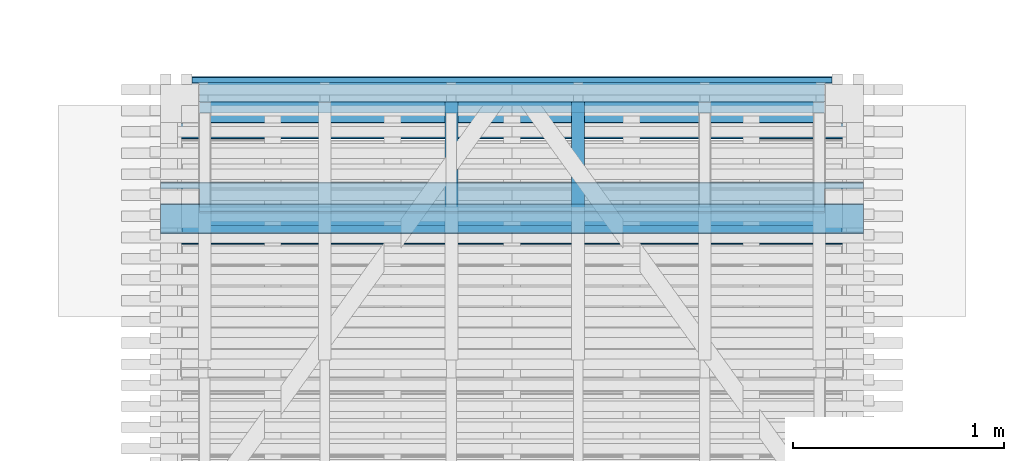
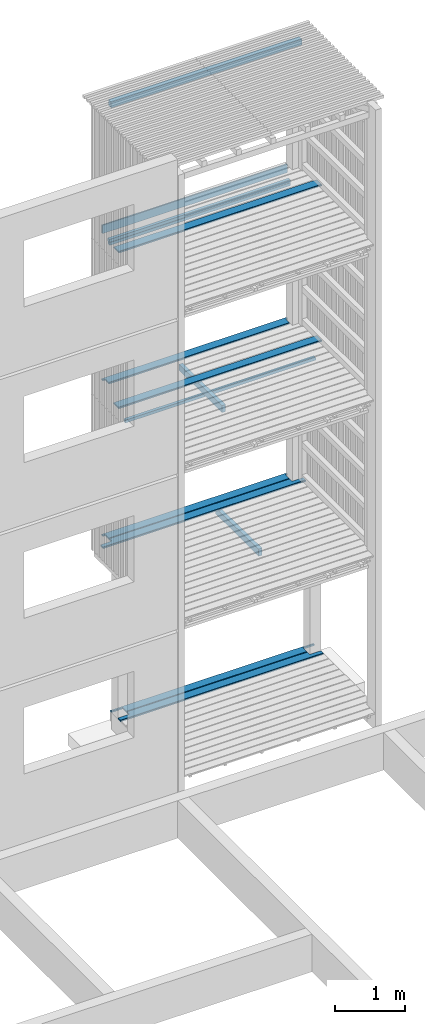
# One storey, part 125 of 182: 14 beams.
"""IFC2X3 building model written with IfcOpenShell, lengths in metres."""

from ifc_helpers import new_model, si_unit, frame, origin, place, context, project, spatial, faceted_brep, element, save


model = new_model("IFC2X3")

# Units and contexts
model_context = context("Model", 3, precision=1e-06, world=origin())
ifc_project = project(units=[si_unit("LENGTHUNIT", "METRE"), si_unit("PLANEANGLEUNIT", "RADIAN")], contexts=[model_context])

# Site, building, storey
site = spatial("IfcSite", under=ifc_project, CompositionType="ELEMENT")
building = spatial("IfcBuilding", under=site, CompositionType="ELEMENT")
storey = spatial("IfcBuildingStorey", under=building, Name="vs", CompositionType="ELEMENT", Elevation=-0.85)

# Beams
placement = place(None, origin())
beam_1_placement = place(placement, frame((56.169999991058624, 7.160077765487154, 7.86739999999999), z_axis=(0.0, 0.0, 1.0), x_axis=(-1.0, 0.0, 0.0)))
element("IfcBeam", 1, at=beam_1_placement, inside=storey, Name="Bardage", context=model_context, shape_type="Brep", body=[
    faceted_brep([(2.96000000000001, -0.024999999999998, 0.025000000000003), (2.96000000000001, -0.024999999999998, -0.024999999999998), (2.96000000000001, 0.025000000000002, -0.024999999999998), (2.96000000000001, 0.025000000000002, 0.025000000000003), (2e-15, 0.024999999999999, 0.025000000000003), (2e-15, 0.024999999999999, -0.024999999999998), (2e-15, -0.024999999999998, -0.024999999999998), (2e-15, -0.024999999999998, 0.025000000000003), (2e-15, -0.024999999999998, -0.024999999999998), (2e-15, 0.024999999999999, -0.024999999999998), (2.96000000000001, 0.025000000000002, -0.024999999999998), (2.96000000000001, -0.024999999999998, -0.024999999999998), (2e-15, 0.024999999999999, -0.024999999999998), (2e-15, 0.024999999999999, 0.025000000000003), (2.96000000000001, 0.025000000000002, 0.025000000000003), (2.96000000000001, 0.025000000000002, -0.024999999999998), (2e-15, 0.024999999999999, 0.025000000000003), (2e-15, -0.024999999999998, 0.025000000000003), (2.96000000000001, -0.024999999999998, 0.025000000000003), (2.96000000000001, 0.025000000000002, 0.025000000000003), (2e-15, -0.024999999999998, 0.025000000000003), (2e-15, -0.024999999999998, -0.024999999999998), (2.96000000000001, -0.024999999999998, -0.024999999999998), (2.96000000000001, -0.024999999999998, 0.025000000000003)], [[[0, 1, 2, 3]], [[4, 5, 6, 7]], [[8, 9, 10, 11]], [[12, 13, 14, 15]], [[16, 17, 18, 19]], [[20, 21, 22, 23]]]),
])
beam_2_placement = place(placement, frame((56.206818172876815, 7.234577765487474, 2.733499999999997), z_axis=(0.0, 0.0, 1.0), x_axis=(-1.0, 0.0, 0.0)))
element("IfcBeam", 2, at=beam_2_placement, inside=storey, Name="Caillebotis", context=model_context, shape_type="Brep", body=[
    faceted_brep([(3.033636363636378, -0.072499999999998, -0.0135), (3.033636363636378, -0.072499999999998, 0.008500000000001), (2e-15, -0.072499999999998, 0.008500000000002), (2e-15, -0.072500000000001, -0.0135), (2.996818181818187, 0.072500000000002, 0.0085), (2.996818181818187, 0.067500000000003, 0.0135), (2.996818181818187, -0.040499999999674, 0.0135), (2.996818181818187, -0.040499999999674, -0.0135), (2.996818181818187, 0.072500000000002, -0.0135), (0.036818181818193, -0.040499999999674, -0.0135), (0.036818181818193, 0.072499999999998, -0.0135), (2.996818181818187, 0.072500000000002, -0.0135), (2.996818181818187, -0.040499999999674, -0.0135), (3.033636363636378, -0.040499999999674, -0.0135), (3.033636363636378, -0.072499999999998, -0.0135), (2e-15, -0.072500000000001, -0.0135), (2e-15, -0.040499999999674, -0.0135), (3.033636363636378, -0.072499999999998, 0.008500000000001), (3.033636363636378, -0.072499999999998, -0.0135), (3.033636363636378, -0.040499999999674, -0.0135), (3.033636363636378, -0.040499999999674, 0.0135), (3.033636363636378, -0.067500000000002, 0.0135), (3.033636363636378, -0.040499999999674, 0.0135), (3.033636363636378, -0.040499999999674, -0.0135), (2.996818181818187, -0.040499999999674, -0.0135), (2.996818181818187, -0.040499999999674, 0.0135), (2.996818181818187, 0.072500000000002, 0.0085), (2.996818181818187, 0.072500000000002, -0.0135), (0.036818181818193, 0.072499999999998, -0.0135), (0.036818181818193, 0.072499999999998, 0.0085), (2.996818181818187, 0.067500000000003, 0.0135), (2.996818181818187, 0.072500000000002, 0.0085), (0.036818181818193, 0.072499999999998, 0.0085), (0.036818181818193, 0.067500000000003, 0.0135), (0.036818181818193, 0.067500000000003, 0.0135), (0.036818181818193, 0.072499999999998, 0.0085), (0.036818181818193, 0.072499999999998, -0.0135), (0.036818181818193, -0.040499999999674, -0.0135), (0.036818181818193, -0.040499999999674, 0.0135), (0.036818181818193, -0.040499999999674, 0.0135), (0.036818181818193, -0.040499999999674, -0.0135), (2e-15, -0.040499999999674, -0.0135), (2e-15, -0.040499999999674, 0.0135), (3.033636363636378, -0.067500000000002, 0.0135), (3.033636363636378, -0.040499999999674, 0.0135), (2.996818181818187, -0.040499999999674, 0.0135), (2.996818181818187, 0.067500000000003, 0.0135), (0.036818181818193, 0.067500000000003, 0.0135), (0.036818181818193, -0.040499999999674, 0.0135), (2e-15, -0.040499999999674, 0.0135), (2e-15, -0.067500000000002, 0.0135), (2e-15, -0.072499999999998, 0.008500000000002), (3.033636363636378, -0.072499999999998, 0.008500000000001), (3.033636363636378, -0.067500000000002, 0.0135), (2e-15, -0.067500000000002, 0.0135), (2e-15, -0.072500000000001, -0.0135), (2e-15, -0.072499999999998, 0.008500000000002), (2e-15, -0.067500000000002, 0.0135), (2e-15, -0.040499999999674, 0.0135), (2e-15, -0.040499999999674, -0.0135)], [[[0, 1, 2, 3]], [[4, 5, 6, 7, 8]], [[9, 10, 11, 12, 13, 14, 15, 16]], [[17, 18, 19, 20, 21]], [[22, 23, 24, 25]], [[26, 27, 28, 29]], [[30, 31, 32, 33]], [[34, 35, 36, 37, 38]], [[39, 40, 41, 42]], [[43, 44, 45, 46, 47, 48, 49, 50]], [[51, 52, 53, 54]], [[55, 56, 57, 58, 59]]]),
])
beam_3_placement = place(placement, frame((55.00299999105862, 5.965077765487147, 2.604249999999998), z_axis=(0.0, 0.0, 1.0), x_axis=(0.0, 1.0, 0.0)))
element("IfcBeam", 3, at=beam_3_placement, inside=storey, Name="Solive", context=model_context, shape_type="Brep", body=[
    faceted_brep([(0.0, -0.030000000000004, -0.06185), (1.225000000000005, -0.030000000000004, -0.06185), (1.225000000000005, -0.030000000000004, 0.037349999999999), (0.0, -0.030000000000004, 0.06185), (0.0, 0.029999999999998, 0.06185), (0.0, 0.029999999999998, -0.06185), (0.0, -0.030000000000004, -0.06185), (0.0, -0.030000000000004, 0.06185), (0.0, -0.030000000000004, -0.06185), (0.0, 0.029999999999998, -0.06185), (1.225000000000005, 0.029999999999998, -0.06185), (1.225000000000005, -0.030000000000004, -0.06185), (1.225000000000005, 0.029999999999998, -0.06185), (0.0, 0.029999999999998, -0.06185), (0.0, 0.029999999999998, 0.06185), (1.225000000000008, 0.029999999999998, 0.037349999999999), (1.225000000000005, -0.030000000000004, 0.037349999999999), (1.225000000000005, -0.030000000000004, -0.06185), (1.225000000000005, 0.029999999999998, -0.06185), (1.225000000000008, 0.029999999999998, 0.037349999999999), (0.0, -0.030000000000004, 0.06185), (1.225000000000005, -0.030000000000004, 0.037349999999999), (1.225000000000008, 0.029999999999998, 0.037349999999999), (0.0, 0.029999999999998, 0.06185)], [[[0, 1, 2, 3]], [[4, 5, 6, 7]], [[8, 9, 10, 11]], [[12, 13, 14, 15]], [[16, 17, 18, 19]], [[20, 21, 22, 23]]]),
])
beam_4_placement = place(placement, frame((56.35499999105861, 6.734577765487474, 0.033500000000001), z_axis=(0.0, 0.0, 1.0), x_axis=(-1.0, 0.0, 0.0)))
element("IfcBeam", 4, at=beam_4_placement, inside=storey, Name="Caillebotis", context=model_context, shape_type="Brep", body=[
    faceted_brep([(0.0, -0.072500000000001, -0.013500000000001), (0.0, -0.072500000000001, 0.008500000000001), (0.0, -0.067500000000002, 0.0135), (0.0, -0.040499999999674, 0.0135), (0.0, -0.040499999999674, -0.013500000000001), (3.329999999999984, -0.067500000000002, 0.0135), (3.329999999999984, -0.040499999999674, 0.0135), (3.144999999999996, -0.040499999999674, 0.0135), (3.144999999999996, 0.067500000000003, 0.0135), (0.184999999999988, 0.067499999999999, 0.0135), (0.184999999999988, -0.040499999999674, 0.0135), (0.0, -0.040499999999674, 0.0135), (0.0, -0.067500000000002, 0.0135), (0.184999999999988, -0.040499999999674, 0.0135), (0.184999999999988, 0.067499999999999, 0.0135), (0.184999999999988, 0.072499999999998, 0.0085), (0.184999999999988, 0.072499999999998, -0.013500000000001), (0.184999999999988, -0.040499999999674, -0.013500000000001), (3.329999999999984, -0.072499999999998, 0.008500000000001), (3.329999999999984, -0.072499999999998, -0.013500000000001), (3.329999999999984, -0.040499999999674, -0.013500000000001), (3.329999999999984, -0.040499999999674, 0.0135), (3.329999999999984, -0.067500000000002, 0.0135), (3.144999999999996, 0.072499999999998, 0.0085), (3.144999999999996, 0.067500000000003, 0.0135), (3.144999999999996, -0.040499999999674, 0.0135), (3.144999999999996, -0.040499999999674, -0.013500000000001), (3.144999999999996, 0.072500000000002, -0.013500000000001), (3.144999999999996, -0.040499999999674, -0.013500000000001), (3.144999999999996, -0.040499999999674, 0.0135), (3.329999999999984, -0.040499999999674, 0.0135), (3.329999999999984, -0.040499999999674, -0.013500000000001), (0.184999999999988, 0.072499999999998, -0.013500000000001), (0.184999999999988, 0.072499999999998, 0.0085), (3.144999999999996, 0.072499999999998, 0.0085), (3.144999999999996, 0.072500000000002, -0.013500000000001), (0.184999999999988, 0.072499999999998, 0.0085), (0.184999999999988, 0.067499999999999, 0.0135), (3.144999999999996, 0.067500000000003, 0.0135), (3.144999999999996, 0.072499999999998, 0.0085), (3.329999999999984, -0.072499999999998, 0.008500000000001), (3.329999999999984, -0.067500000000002, 0.0135), (0.0, -0.067500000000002, 0.0135), (0.0, -0.072500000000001, 0.008500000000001), (3.329999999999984, -0.072499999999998, -0.013500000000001), (3.329999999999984, -0.072499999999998, 0.008500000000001), (0.0, -0.072500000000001, 0.008500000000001), (0.0, -0.072500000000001, -0.013500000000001), (0.184999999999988, -0.040499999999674, -0.013500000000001), (0.184999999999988, 0.072499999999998, -0.013500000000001), (3.144999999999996, 0.072500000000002, -0.013500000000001), (3.144999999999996, -0.040499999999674, -0.013500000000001), (3.329999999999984, -0.040499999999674, -0.013500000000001), (3.329999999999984, -0.072499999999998, -0.013500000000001), (0.0, -0.072500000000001, -0.013500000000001), (0.0, -0.040499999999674, -0.013500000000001), (0.0, -0.040499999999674, 0.0135), (0.184999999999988, -0.040499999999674, 0.0135), (0.184999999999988, -0.040499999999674, -0.013500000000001), (0.0, -0.040499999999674, -0.013500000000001)], [[[0, 1, 2, 3, 4]], [[5, 6, 7, 8, 9, 10, 11, 12]], [[13, 14, 15, 16, 17]], [[18, 19, 20, 21, 22]], [[23, 24, 25, 26, 27]], [[28, 29, 30, 31]], [[32, 33, 34, 35]], [[36, 37, 38, 39]], [[40, 41, 42, 43]], [[44, 45, 46, 47]], [[48, 49, 50, 51, 52, 53, 54, 55]], [[56, 57, 58, 59]]]),
])
beam_5_placement = place(placement, frame((56.35499999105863, 6.634577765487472, 8.13349999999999), z_axis=(0.0, 0.0, 1.0), x_axis=(-1.0, 0.0, 0.0)))
element("IfcBeam", 5, at=beam_5_placement, inside=storey, Name="Caillebotis", context=model_context, shape_type="Brep", body=[
    faceted_brep([(3.329999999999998, -0.072499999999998, -0.013500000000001), (3.329999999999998, 0.072499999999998, -0.013500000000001), (3.329999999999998, 0.072499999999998, 0.008499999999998), (3.329999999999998, 0.067500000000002, 0.013499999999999), (3.329999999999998, -0.067500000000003, 0.013499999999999), (3.329999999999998, -0.072499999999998, 0.0085), (0.0, -0.072500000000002, 0.0085), (0.0, -0.067500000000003, 0.013499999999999), (0.0, 0.067499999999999, 0.013499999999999), (0.0, 0.072499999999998, 0.008499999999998), (0.0, 0.072499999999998, -0.013500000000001), (0.0, -0.072500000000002, -0.013500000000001), (3.329999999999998, 0.072499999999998, 0.008499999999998), (3.329999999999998, 0.072499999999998, -0.013500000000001), (0.0, 0.072499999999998, -0.013500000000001), (0.0, 0.072499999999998, 0.008499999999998), (3.329999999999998, 0.067500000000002, 0.013499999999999), (3.329999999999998, 0.072499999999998, 0.008499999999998), (0.0, 0.072499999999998, 0.008499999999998), (0.0, 0.067499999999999, 0.013499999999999), (3.329999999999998, -0.067500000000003, 0.013499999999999), (3.329999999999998, 0.067500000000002, 0.013499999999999), (0.0, 0.067499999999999, 0.013499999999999), (0.0, -0.067500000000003, 0.013499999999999), (3.329999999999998, -0.072499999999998, 0.0085), (3.329999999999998, -0.067500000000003, 0.013499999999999), (0.0, -0.067500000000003, 0.013499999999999), (0.0, -0.072500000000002, 0.0085), (3.329999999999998, -0.072499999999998, -0.013500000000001), (3.329999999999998, -0.072499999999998, 0.0085), (0.0, -0.072500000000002, 0.0085), (0.0, -0.072500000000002, -0.013500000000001), (0.0, 0.072499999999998, -0.013500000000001), (3.329999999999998, 0.072499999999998, -0.013500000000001), (3.329999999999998, -0.072499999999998, -0.013500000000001), (0.0, -0.072500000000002, -0.013500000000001)], [[[0, 1, 2, 3, 4, 5]], [[6, 7, 8, 9, 10, 11]], [[12, 13, 14, 15]], [[16, 17, 18, 19]], [[20, 21, 22, 23]], [[24, 25, 26, 27]], [[28, 29, 30, 31]], [[32, 33, 34, 35]]]),
])
beam_6_placement = place(placement, frame((56.33499999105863, 7.130077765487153, 10.30499999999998), z_axis=(0.0, 0.0, 1.0), x_axis=(-1.0, 0.0, 0.0)))
element("IfcBeam", 6, at=beam_6_placement, inside=storey, Name="Support bardage", context=model_context, shape_type="Brep", body=[
    faceted_brep([(3e-15, 0.04, -0.050000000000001), (3e-15, -0.039999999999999, -0.050000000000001), (3e-15, -0.039999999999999, 0.050000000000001), (3e-15, 0.04, 0.050000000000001), (3.129999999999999, -0.039999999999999, 0.050000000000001), (3.129999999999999, -0.039999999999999, -0.050000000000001), (3.129999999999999, 0.04, -0.050000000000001), (3.129999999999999, 0.04, 0.050000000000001), (3e-15, -0.039999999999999, -0.050000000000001), (3e-15, 0.04, -0.050000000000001), (3.129999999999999, 0.04, -0.050000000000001), (3.129999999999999, -0.039999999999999, -0.050000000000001), (3e-15, -0.039999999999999, 0.050000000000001), (3e-15, -0.039999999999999, -0.050000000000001), (3.129999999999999, -0.039999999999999, -0.050000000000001), (3.129999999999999, -0.039999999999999, 0.050000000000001), (3e-15, 0.04, 0.050000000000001), (3e-15, -0.039999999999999, 0.050000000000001), (3.129999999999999, -0.039999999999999, 0.050000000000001), (3.129999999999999, 0.04, 0.050000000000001), (3.129999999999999, 0.04, -0.050000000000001), (3e-15, 0.04, -0.050000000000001), (3e-15, 0.04, 0.050000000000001), (3.129999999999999, 0.04, 0.050000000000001)], [[[0, 1, 2, 3]], [[4, 5, 6, 7]], [[8, 9, 10, 11]], [[12, 13, 14, 15]], [[16, 17, 18, 19]], [[20, 21, 22, 23]]]),
])
beam_7_placement = place(placement, frame((56.206818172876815, 7.234577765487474, 5.433499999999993), z_axis=(0.0, 0.0, 1.0), x_axis=(-1.0, 0.0, 0.0)))
element("IfcBeam", 7, at=beam_7_placement, inside=storey, Name="Caillebotis", context=model_context, shape_type="Brep", body=[
    faceted_brep([(3.033636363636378, -0.072499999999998, -0.0135), (3.033636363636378, -0.072499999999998, 0.008500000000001), (2e-15, -0.072499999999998, 0.008500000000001), (2e-15, -0.072500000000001, -0.0135), (2.996818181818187, 0.072500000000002, 0.0085), (2.996818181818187, 0.067500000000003, 0.0135), (2.996818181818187, -0.040499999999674, 0.0135), (2.996818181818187, -0.040499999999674, -0.0135), (2.996818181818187, 0.072500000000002, -0.013500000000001), (0.036818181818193, -0.040499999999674, -0.0135), (0.036818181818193, 0.072499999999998, -0.0135), (2.996818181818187, 0.072500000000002, -0.013500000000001), (2.996818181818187, -0.040499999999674, -0.0135), (3.033636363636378, -0.040499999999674, -0.013500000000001), (3.033636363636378, -0.072499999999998, -0.0135), (2e-15, -0.072500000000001, -0.0135), (2e-15, -0.040499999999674, -0.0135), (3.033636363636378, -0.072499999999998, 0.008500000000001), (3.033636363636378, -0.072499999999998, -0.0135), (3.033636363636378, -0.040499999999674, -0.013500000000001), (3.033636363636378, -0.040499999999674, 0.0135), (3.033636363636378, -0.067500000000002, 0.0135), (3.033636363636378, -0.040499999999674, 0.0135), (3.033636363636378, -0.040499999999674, -0.013500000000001), (2.996818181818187, -0.040499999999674, -0.0135), (2.996818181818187, -0.040499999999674, 0.0135), (2.996818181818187, 0.072500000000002, 0.0085), (2.996818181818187, 0.072500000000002, -0.013500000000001), (0.036818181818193, 0.072499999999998, -0.0135), (0.036818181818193, 0.072499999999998, 0.008500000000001), (2.996818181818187, 0.067500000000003, 0.0135), (2.996818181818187, 0.072500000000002, 0.0085), (0.036818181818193, 0.072499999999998, 0.008500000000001), (0.036818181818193, 0.067500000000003, 0.0135), (0.036818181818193, 0.067500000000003, 0.0135), (0.036818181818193, 0.072499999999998, 0.008500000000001), (0.036818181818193, 0.072499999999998, -0.0135), (0.036818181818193, -0.040499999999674, -0.0135), (0.036818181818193, -0.040499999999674, 0.0135), (0.036818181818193, -0.040499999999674, 0.0135), (0.036818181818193, -0.040499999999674, -0.0135), (2e-15, -0.040499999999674, -0.0135), (2e-15, -0.040499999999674, 0.0135), (3.033636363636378, -0.067500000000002, 0.0135), (3.033636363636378, -0.040499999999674, 0.0135), (2.996818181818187, -0.040499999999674, 0.0135), (2.996818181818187, 0.067500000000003, 0.0135), (0.036818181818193, 0.067500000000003, 0.0135), (0.036818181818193, -0.040499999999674, 0.0135), (2e-15, -0.040499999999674, 0.0135), (2e-15, -0.067500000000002, 0.0135), (2e-15, -0.072499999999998, 0.008500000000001), (3.033636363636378, -0.072499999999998, 0.008500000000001), (3.033636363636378, -0.067500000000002, 0.0135), (2e-15, -0.067500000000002, 0.0135), (2e-15, -0.072500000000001, -0.0135), (2e-15, -0.072499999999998, 0.008500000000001), (2e-15, -0.067500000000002, 0.0135), (2e-15, -0.040499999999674, 0.0135), (2e-15, -0.040499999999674, -0.0135)], [[[0, 1, 2, 3]], [[4, 5, 6, 7, 8]], [[9, 10, 11, 12, 13, 14, 15, 16]], [[17, 18, 19, 20, 21]], [[22, 23, 24, 25]], [[26, 27, 28, 29]], [[30, 31, 32, 33]], [[34, 35, 36, 37, 38]], [[39, 40, 41, 42]], [[43, 44, 45, 46, 47, 48, 49, 50]], [[51, 52, 53, 54]], [[55, 56, 57, 58, 59]]]),
])
beam_8_placement = place(placement, frame((54.402999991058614, 5.965077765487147, 5.304249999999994), z_axis=(0.0, 0.0, 1.0), x_axis=(1.2e-14, 1.0, 0.0)))
element("IfcBeam", 8, at=beam_8_placement, inside=storey, Name="Solive", context=model_context, shape_type="Brep", body=[
    faceted_brep([(0.0, -0.030000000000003, -0.061849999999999), (1.225000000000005, -0.029999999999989, -0.061849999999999), (1.225000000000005, -0.029999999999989, 0.03735), (0.0, -0.030000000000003, 0.06185), (-1e-15, 0.029999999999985, -0.061849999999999), (1.225000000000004, 0.029999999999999, -0.061849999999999), (1.225000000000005, -0.029999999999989, -0.061849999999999), (0.0, -0.030000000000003, -0.061849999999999), (-1e-15, 0.029999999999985, 0.061850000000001), (-1e-15, 0.029999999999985, -0.061849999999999), (0.0, -0.030000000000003, -0.061849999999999), (0.0, -0.030000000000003, 0.06185), (1.225000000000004, 0.029999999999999, -0.061849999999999), (-1e-15, 0.029999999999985, -0.061849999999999), (-1e-15, 0.029999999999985, 0.061850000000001), (1.225000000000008, 0.029999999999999, 0.03735), (1.225000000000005, -0.029999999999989, 0.03735), (1.225000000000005, -0.029999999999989, -0.061849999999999), (1.225000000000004, 0.029999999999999, -0.061849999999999), (1.225000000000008, 0.029999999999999, 0.03735), (0.0, -0.030000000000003, 0.06185), (1.225000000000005, -0.029999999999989, 0.03735), (1.225000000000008, 0.029999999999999, 0.03735), (-1e-15, 0.029999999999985, 0.061850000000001)], [[[0, 1, 2, 3]], [[4, 5, 6, 7]], [[8, 9, 10, 11]], [[12, 13, 14, 15]], [[16, 17, 18, 19]], [[20, 21, 22, 23]]]),
])
beam_9_placement = place(placement, frame((56.35499999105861, 6.584577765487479, 0.033500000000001), z_axis=(0.0, 0.0, 1.0), x_axis=(-1.0, 0.0, 0.0)))
element("IfcBeam", 9, at=beam_9_placement, inside=storey, Name="Caillebotis", context=model_context, shape_type="Brep", body=[
    faceted_brep([(0.184999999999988, -0.000499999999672, -0.0135), (0.184999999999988, -0.072499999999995, -0.0135), (0.184999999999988, -0.072499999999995, 0.008500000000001), (0.184999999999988, -0.067499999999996, 0.0135), (0.184999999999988, -0.000499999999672, 0.0135), (3.329999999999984, -0.000499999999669, 0.0135), (3.329999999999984, -0.000499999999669, -0.013500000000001), (3.329999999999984, 0.072500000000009, -0.013500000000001), (3.329999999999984, 0.072500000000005, 0.0085), (3.329999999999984, 0.067500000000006, 0.0135), (3.144999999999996, -0.072499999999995, 0.008500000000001), (3.144999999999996, -0.072499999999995, -0.013500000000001), (3.144999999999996, -0.000499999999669, -0.013500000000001), (3.144999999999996, -0.000499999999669, 0.0135), (3.144999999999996, -0.067499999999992, 0.0135), (3.144999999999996, -0.000499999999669, 0.0135), (3.144999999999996, -0.000499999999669, -0.013500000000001), (3.329999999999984, -0.000499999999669, -0.013500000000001), (3.329999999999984, -0.000499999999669, 0.0135), (0.184999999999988, -0.067499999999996, 0.0135), (0.184999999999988, -0.072499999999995, 0.008500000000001), (3.144999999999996, -0.072499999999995, 0.008500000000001), (3.144999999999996, -0.067499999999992, 0.0135), (0.184999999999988, -0.072499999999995, 0.008500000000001), (0.184999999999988, -0.072499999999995, -0.0135), (3.144999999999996, -0.072499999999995, -0.013500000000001), (3.144999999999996, -0.072499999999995, 0.008500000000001), (0.0, 0.072500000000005, -0.0135), (0.0, -0.000499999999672, -0.0135), (0.0, -0.000499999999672, 0.0135), (0.0, 0.067500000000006, 0.0135), (0.0, 0.072500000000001, 0.0085), (0.184999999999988, -0.000499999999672, 0.0135), (0.184999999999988, -0.067499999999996, 0.0135), (3.144999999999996, -0.067499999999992, 0.0135), (3.144999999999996, -0.000499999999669, 0.0135), (3.329999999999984, -0.000499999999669, 0.0135), (3.329999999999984, 0.067500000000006, 0.0135), (0.0, 0.067500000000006, 0.0135), (0.0, -0.000499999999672, 0.0135), (0.184999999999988, -0.000499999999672, -0.0135), (0.184999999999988, -0.000499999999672, 0.0135), (0.0, -0.000499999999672, 0.0135), (0.0, -0.000499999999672, -0.0135), (3.329999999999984, 0.072500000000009, -0.013500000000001), (3.329999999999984, -0.000499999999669, -0.013500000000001), (3.144999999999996, -0.000499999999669, -0.013500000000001), (3.144999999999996, -0.072499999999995, -0.013500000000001), (0.184999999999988, -0.072499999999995, -0.0135), (0.184999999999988, -0.000499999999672, -0.0135), (0.0, -0.000499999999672, -0.0135), (0.0, 0.072500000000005, -0.0135), (3.329999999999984, 0.072500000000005, 0.0085), (3.329999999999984, 0.072500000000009, -0.013500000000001), (0.0, 0.072500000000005, -0.0135), (0.0, 0.072500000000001, 0.0085), (0.0, 0.067500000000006, 0.0135), (3.329999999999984, 0.067500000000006, 0.0135), (3.329999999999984, 0.072500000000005, 0.0085), (0.0, 0.072500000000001, 0.0085)], [[[0, 1, 2, 3, 4]], [[5, 6, 7, 8, 9]], [[10, 11, 12, 13, 14]], [[15, 16, 17, 18]], [[19, 20, 21, 22]], [[23, 24, 25, 26]], [[27, 28, 29, 30, 31]], [[32, 33, 34, 35, 36, 37, 38, 39]], [[40, 41, 42, 43]], [[44, 45, 46, 47, 48, 49, 50, 51]], [[52, 53, 54, 55]], [[56, 57, 58, 59]]]),
])
beam_10_placement = place(placement, frame((53.20499999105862, 7.165077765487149, 7.917399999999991), z_axis=(0.0, 0.0, 1.0), x_axis=(1.0, 1e-15, 0.0)))
element("IfcBeam", 10, at=beam_10_placement, inside=storey, Name="Ligneul", context=model_context, shape_type="Brep", body=[
    faceted_brep([(2e-15, 0.025000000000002, -0.025000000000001), (2.970000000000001, 0.025000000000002, -0.025000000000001), (2.970000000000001, -0.025000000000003, -0.025000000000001), (2e-15, -0.024999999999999, -0.025000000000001), (2e-15, -0.024999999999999, 0.024999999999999), (2e-15, 0.025000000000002, 0.024999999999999), (2e-15, 0.025000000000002, -0.025000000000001), (2e-15, -0.024999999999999, -0.025000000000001), (2e-15, -0.024999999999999, 0.024999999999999), (2e-15, -0.024999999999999, -0.025000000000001), (2.970000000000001, -0.025000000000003, -0.025000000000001), (2.970000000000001, -0.025000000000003, 0.024999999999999), (2.970000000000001, -0.025000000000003, 0.024999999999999), (2.970000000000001, -0.025000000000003, -0.025000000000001), (2.970000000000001, 0.025000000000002, -0.025000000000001), (2.970000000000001, 0.025000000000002, 0.024999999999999), (2e-15, 0.025000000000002, 0.024999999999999), (2e-15, -0.024999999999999, 0.024999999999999), (2.970000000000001, -0.025000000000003, 0.024999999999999), (2.970000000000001, 0.025000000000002, 0.024999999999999), (2.970000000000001, 0.025000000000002, -0.025000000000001), (2e-15, 0.025000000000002, -0.025000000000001), (2e-15, 0.025000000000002, 0.024999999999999), (2.970000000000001, 0.025000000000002, 0.024999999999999)], [[[0, 1, 2, 3]], [[4, 5, 6, 7]], [[8, 9, 10, 11]], [[12, 13, 14, 15]], [[16, 17, 18, 19]], [[20, 21, 22, 23]]]),
])
beam_11_placement = place(placement, frame((53.17318180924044, 7.293577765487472, 8.042499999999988), z_axis=(0.0, 1.0, 0.0), x_axis=(1.0, 0.0, 0.0)))
element("IfcBeam", 11, at=beam_11_placement, inside=storey, Name="Caillebotis", context=model_context, shape_type="Brep", body=[
    faceted_brep([(-3e-15, -0.072500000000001, -0.013500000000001), (-3e-15, 0.072499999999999, -0.013500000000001), (3.033636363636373, 0.072499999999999, -0.013500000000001), (3.033636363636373, -0.072500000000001, -0.013500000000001), (-3e-15, -0.072500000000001, 0.008500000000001), (-3e-15, -0.072500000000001, -0.013500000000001), (3.033636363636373, -0.072500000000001, -0.013500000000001), (3.033636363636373, -0.072500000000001, 0.008500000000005), (-3e-15, -0.067500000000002, 0.0135), (-3e-15, -0.072500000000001, 0.008500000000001), (3.033636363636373, -0.072500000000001, 0.008500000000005), (3.033636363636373, -0.067500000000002, 0.013500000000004), (-3e-15, -0.072500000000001, -0.013500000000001), (-3e-15, -0.072500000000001, 0.008500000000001), (-3e-15, -0.067500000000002, 0.0135), (-3e-15, 0.0675, 0.0135), (-3e-15, 0.072499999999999, 0.008500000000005), (-3e-15, 0.072499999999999, -0.013500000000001), (-3e-15, 0.0675, 0.0135), (-3e-15, -0.067500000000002, 0.0135), (3.033636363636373, -0.067500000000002, 0.013500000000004), (3.033636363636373, 0.0675, 0.013500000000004), (-3e-15, 0.072499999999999, 0.008500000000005), (-3e-15, 0.0675, 0.0135), (3.033636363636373, 0.0675, 0.013500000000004), (3.033636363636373, 0.072499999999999, 0.008500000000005), (3.033636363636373, 0.072499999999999, -0.013500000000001), (-3e-15, 0.072499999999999, -0.013500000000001), (-3e-15, 0.072499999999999, 0.008500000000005), (3.033636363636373, 0.072499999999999, 0.008500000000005), (3.033636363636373, -0.072500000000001, 0.008500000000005), (3.033636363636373, -0.072500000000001, -0.013500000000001), (3.033636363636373, 0.072499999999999, -0.013500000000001), (3.033636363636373, 0.072499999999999, 0.008500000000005), (3.033636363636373, 0.0675, 0.013500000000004), (3.033636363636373, -0.067500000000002, 0.013500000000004)], [[[0, 1, 2, 3]], [[4, 5, 6, 7]], [[8, 9, 10, 11]], [[12, 13, 14, 15, 16, 17]], [[18, 19, 20, 21]], [[22, 23, 24, 25]], [[26, 27, 28, 29]], [[30, 31, 32, 33, 34, 35]]]),
])
beam_12_placement = place(placement, frame((56.24999999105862, 6.577577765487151, 5.167399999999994), z_axis=(0.0, 0.0, 1.0), x_axis=(-1.0, -1e-15, 0.0)))
element("IfcBeam", 12, at=beam_12_placement, inside=storey, Name="Bardage", context=model_context, shape_type="Brep", body=[
    faceted_brep([(3.120000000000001, 0.024999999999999, 0.024999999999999), (3.120000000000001, -0.025000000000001, 0.024999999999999), (3.120000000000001, -0.025000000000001, -0.024999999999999), (3.120000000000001, 0.024999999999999, -0.024999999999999), (-3e-15, -0.024999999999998, 0.024999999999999), (-3e-15, 0.025000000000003, 0.024999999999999), (-3e-15, 0.025000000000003, -0.024999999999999), (-3e-15, -0.024999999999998, -0.024999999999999), (-3e-15, -0.024999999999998, -0.024999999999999), (-3e-15, 0.025000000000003, -0.024999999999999), (3.120000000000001, 0.024999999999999, -0.024999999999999), (3.120000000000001, -0.025000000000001, -0.024999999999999), (-3e-15, -0.024999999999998, -0.024999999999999), (3.120000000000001, -0.025000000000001, -0.024999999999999), (3.120000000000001, -0.025000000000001, 0.024999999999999), (-3e-15, -0.024999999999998, 0.024999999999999), (3.120000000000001, 0.024999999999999, 0.024999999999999), (3.120000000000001, 0.024999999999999, -0.024999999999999), (-3e-15, 0.025000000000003, -0.024999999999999), (-3e-15, 0.025000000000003, 0.024999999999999), (3.120000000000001, 0.024999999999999, 0.024999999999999), (-3e-15, 0.025000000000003, 0.024999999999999), (-3e-15, -0.024999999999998, 0.024999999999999), (3.120000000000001, -0.025000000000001, 0.024999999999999)], [[[0, 1, 2, 3]], [[4, 5, 6, 7]], [[8, 9, 10, 11]], [[12, 13, 14, 15]], [[16, 17, 18, 19]], [[20, 21, 22, 23]]]),
])
beam_13_placement = place(placement, frame((56.35499999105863, 6.634577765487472, 5.433499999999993), z_axis=(0.0, 0.0, 1.0), x_axis=(-1.0, 0.0, 0.0)))
element("IfcBeam", 13, at=beam_13_placement, inside=storey, Name="Caillebotis", context=model_context, shape_type="Brep", body=[
    faceted_brep([(3.329999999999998, -0.072499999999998, -0.0135), (3.329999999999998, 0.072499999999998, -0.0135), (3.329999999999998, 0.072499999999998, 0.0085), (3.329999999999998, 0.067500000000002, 0.0135), (3.329999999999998, -0.067500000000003, 0.0135), (3.329999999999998, -0.072499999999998, 0.008500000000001), (0.0, -0.072500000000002, 0.008500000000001), (0.0, -0.067500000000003, 0.0135), (0.0, 0.067499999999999, 0.0135), (0.0, 0.072499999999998, 0.0085), (0.0, 0.072499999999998, -0.0135), (0.0, -0.072500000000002, -0.0135), (3.329999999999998, 0.072499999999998, 0.0085), (3.329999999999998, 0.072499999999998, -0.0135), (0.0, 0.072499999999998, -0.0135), (0.0, 0.072499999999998, 0.0085), (3.329999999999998, 0.067500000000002, 0.0135), (3.329999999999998, 0.072499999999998, 0.0085), (0.0, 0.072499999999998, 0.0085), (0.0, 0.067499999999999, 0.0135), (3.329999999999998, -0.067500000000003, 0.0135), (3.329999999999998, 0.067500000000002, 0.0135), (0.0, 0.067499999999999, 0.0135), (0.0, -0.067500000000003, 0.0135), (3.329999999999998, -0.072499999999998, 0.008500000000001), (3.329999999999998, -0.067500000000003, 0.0135), (0.0, -0.067500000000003, 0.0135), (0.0, -0.072500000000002, 0.008500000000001), (3.329999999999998, -0.072499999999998, -0.0135), (3.329999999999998, -0.072499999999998, 0.008500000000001), (0.0, -0.072500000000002, 0.008500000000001), (0.0, -0.072500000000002, -0.0135), (0.0, 0.072499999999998, -0.0135), (3.329999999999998, 0.072499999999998, -0.0135), (3.329999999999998, -0.072499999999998, -0.0135), (0.0, -0.072500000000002, -0.0135)], [[[0, 1, 2, 3, 4, 5]], [[6, 7, 8, 9, 10, 11]], [[12, 13, 14, 15]], [[16, 17, 18, 19]], [[20, 21, 22, 23]], [[24, 25, 26, 27]], [[28, 29, 30, 31]], [[32, 33, 34, 35]]]),
])
beam_14_placement = place(placement, frame((56.35499999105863, 7.084577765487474, 2.733499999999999), z_axis=(0.0, 0.0, 1.0), x_axis=(-1.0, 0.0, 0.0)))
element("IfcBeam", 14, at=beam_14_placement, inside=storey, Name="Caillebotis", context=model_context, shape_type="Brep", body=[
    faceted_brep([(3.144999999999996, -0.000499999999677, 0.0135), (3.144999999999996, -0.000499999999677, -0.0135), (3.329999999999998, -0.000499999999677, -0.0135), (3.329999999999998, -0.000499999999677, 0.0135), (3.329999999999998, 0.072500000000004, -0.0135), (3.329999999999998, 0.0725, 0.0085), (3.329999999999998, 0.067500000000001, 0.0135), (3.329999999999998, -0.000499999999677, 0.0135), (3.329999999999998, -0.000499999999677, -0.0135), (3.144999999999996, -0.072499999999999, 0.008500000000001), (3.144999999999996, -0.072499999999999, -0.013500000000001), (3.144999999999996, -0.000499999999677, -0.0135), (3.144999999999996, -0.000499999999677, 0.0135), (3.144999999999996, -0.0675, 0.0135), (3.144999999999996, -0.072499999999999, -0.013500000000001), (3.144999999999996, -0.072499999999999, 0.008500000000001), (0.185000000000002, -0.072499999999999, 0.008500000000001), (0.185000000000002, -0.072499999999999, -0.0135), (3.144999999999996, -0.072499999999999, 0.008500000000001), (3.144999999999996, -0.0675, 0.0135), (0.185000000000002, -0.067500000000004, 0.0135), (0.185000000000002, -0.072499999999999, 0.008500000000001), (0.185000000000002, -0.072499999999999, -0.0135), (0.185000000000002, -0.072499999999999, 0.008500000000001), (0.185000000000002, -0.067500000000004, 0.0135), (0.185000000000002, -0.000499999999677, 0.0135), (0.185000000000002, -0.000499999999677, -0.0135), (1.4e-14, -0.000499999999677, 0.0135), (0.0, 0.067500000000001, 0.0135), (0.0, 0.0725, 0.008500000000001), (0.0, 0.0725, -0.0135), (0.0, -0.000499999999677, -0.0135), (3.329999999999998, 0.0725, 0.0085), (3.329999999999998, 0.072500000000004, -0.0135), (0.0, 0.0725, -0.0135), (0.0, 0.0725, 0.008500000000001), (3.329999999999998, 0.067500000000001, 0.0135), (3.329999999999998, 0.0725, 0.0085), (0.0, 0.0725, 0.008500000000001), (0.0, 0.067500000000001, 0.0135), (3.144999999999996, -0.0675, 0.0135), (3.144999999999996, -0.000499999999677, 0.0135), (3.329999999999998, -0.000499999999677, 0.0135), (3.329999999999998, 0.067500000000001, 0.0135), (0.0, 0.067500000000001, 0.0135), (1.4e-14, -0.000499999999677, 0.0135), (0.185000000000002, -0.000499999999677, 0.0135), (0.185000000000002, -0.067500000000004, 0.0135), (0.185000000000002, -0.000499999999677, -0.0135), (0.185000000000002, -0.000499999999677, 0.0135), (1.4e-14, -0.000499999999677, 0.0135), (0.0, -0.000499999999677, -0.0135), (0.0, -0.000499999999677, -0.0135), (0.0, 0.0725, -0.0135), (3.329999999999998, 0.072500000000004, -0.0135), (3.329999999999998, -0.000499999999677, -0.0135), (3.144999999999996, -0.000499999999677, -0.0135), (3.144999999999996, -0.072499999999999, -0.013500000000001), (0.185000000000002, -0.072499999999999, -0.0135), (0.185000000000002, -0.000499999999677, -0.0135)], [[[0, 1, 2, 3]], [[4, 5, 6, 7, 8]], [[9, 10, 11, 12, 13]], [[14, 15, 16, 17]], [[18, 19, 20, 21]], [[22, 23, 24, 25, 26]], [[27, 28, 29, 30, 31]], [[32, 33, 34, 35]], [[36, 37, 38, 39]], [[40, 41, 42, 43, 44, 45, 46, 47]], [[48, 49, 50, 51]], [[52, 53, 54, 55, 56, 57, 58, 59]]]),
])

save(model, "model.ifc")
